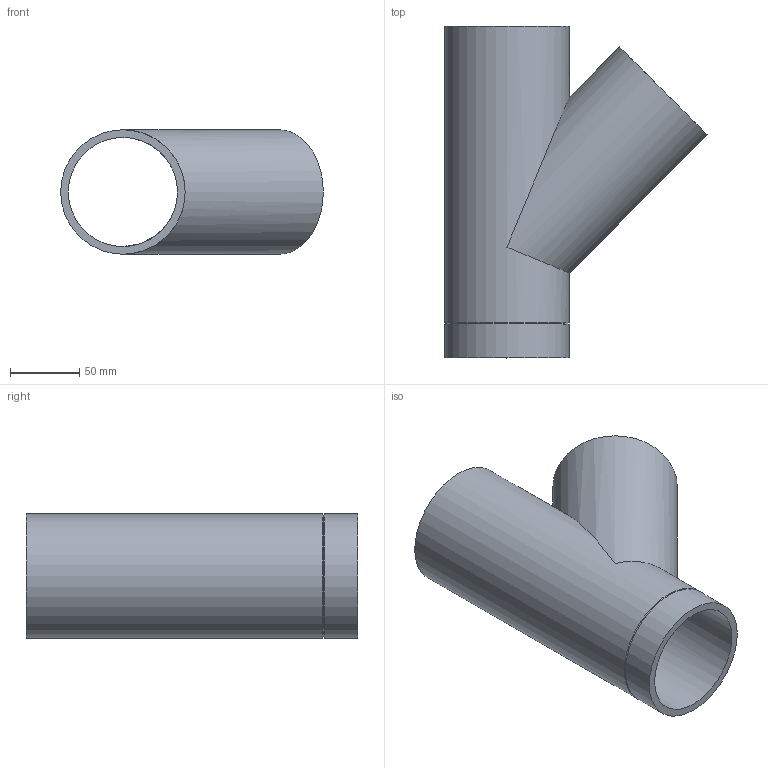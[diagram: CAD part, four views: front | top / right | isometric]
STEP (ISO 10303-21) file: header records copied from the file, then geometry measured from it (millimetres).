
FILE_DESCRIPTION(/* description */ (''),/* implementation_level */ '2;1');
FILE_NAME(/* name */ 'Z:\Geberit\Export\Export18\Abzweig Gerade_Ipart\stp\308084.stp',/* time_stamp */ '2014-08-26T21:51:35+02:00',/* author */ ('ML'),/* organization */ (''),/* preprocessor_version */ 'ST-DEVELOPER v15.2',/* originating_system */ 'Autodesk Inventor 2014',/* authorisation */ '');
FILE_SCHEMA (('AUTOMOTIVE_DESIGN { 1 0 10303 214 3 1 1 }'));
Length unit declared in the file: millimetre
Products named in the file (1): 308084
Bounding box: 189.96 x 240 x 90 mm (x, y, z)
Volume: 472657.6 mm3; surface area: 176477.3 mm2
Topology: 1 solids, 1 shells, 10 faces, 26 edges, 18 vertices
Faces by surface type: cylinder 5, plane 3, cone 2
Full cylindrical faces by diameter (mm): 79 x2, 90 x3
Entity records: 263 total; most frequent: DIRECTION 48, CARTESIAN_POINT 37, ORIENTED_EDGE 26, AXIS2_PLACEMENT_3D 24, EDGE_LOOP 22, FACE_BOUND 17, VERTEX_POINT 13, EDGE_CURVE 13
